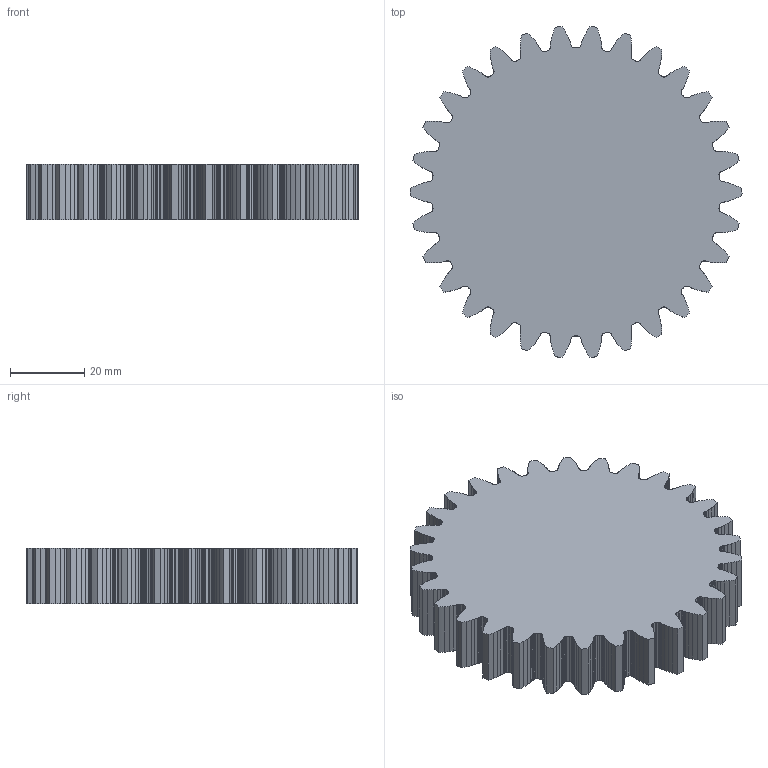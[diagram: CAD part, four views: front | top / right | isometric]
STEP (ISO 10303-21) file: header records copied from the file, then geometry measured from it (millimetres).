
FILE_DESCRIPTION (( 'STEP AP203' ), '1' );
FILE_NAME ('Ritzel.STEP', '2004-03-01T20:18:57', ( 'Harald Vogel' ), ( './.' ), 'SwSTEP 2.0', 'SolidWorks 2004015', '' );
FILE_SCHEMA (( 'CONFIG_CONTROL_DESIGN' ));
Length unit declared in the file: millimetre
Products named in the file (1): Ritzel
Bounding box: 89.37 x 89.06 x 15 mm (x, y, z)
Volume: 82312.4 mm3; surface area: 18364.8 mm2
Topology: 1 solids, 1 shells, 677 faces, 2025 edges, 1350 vertices
Faces by surface type: cylinder 615, plane 62
Entity records: 23606 total; most frequent: DIRECTION 4611, CARTESIAN_POINT 4053, ORIENTED_EDGE 4050, EDGE_CURVE 2025, AXIS2_PLACEMENT_3D 1908, VERTEX_POINT 1350, CIRCLE 1230, LINE 795
